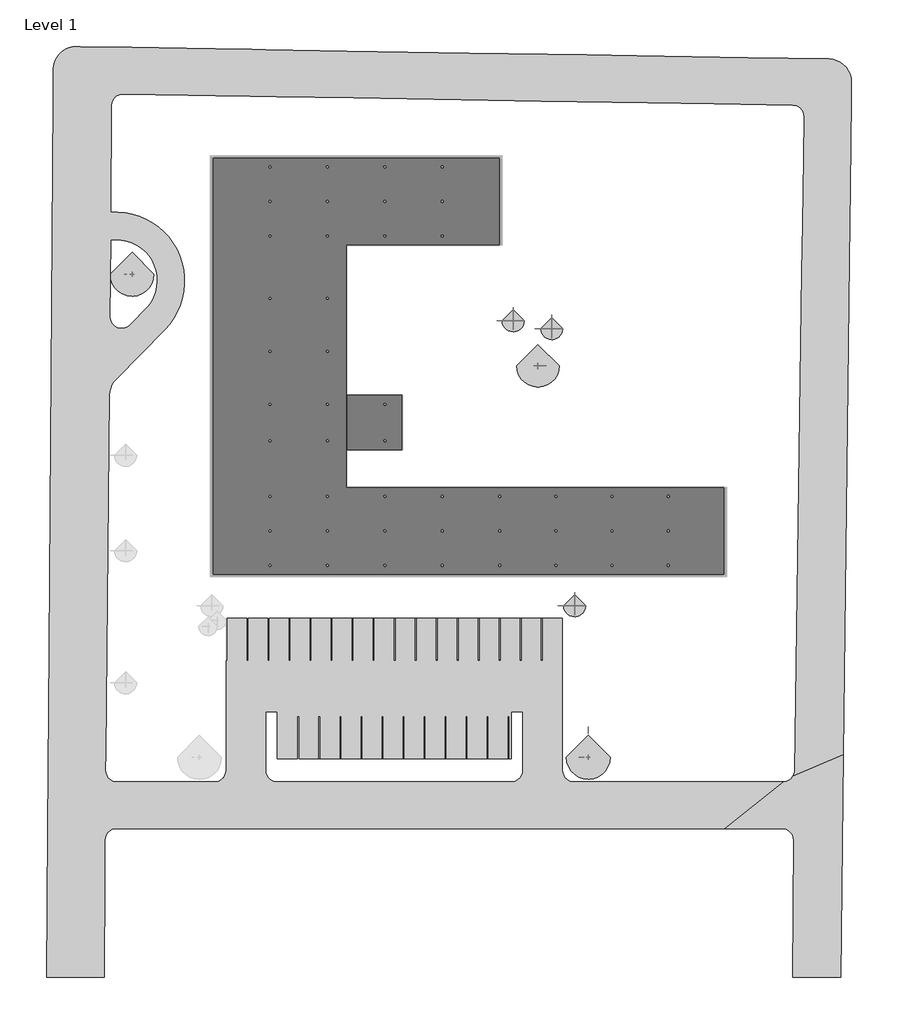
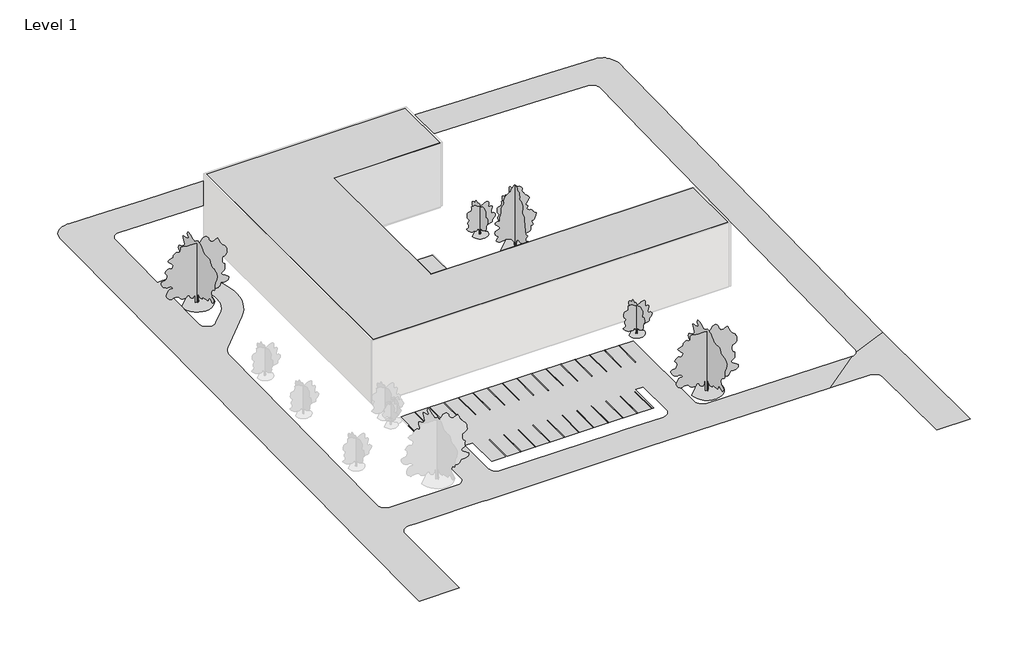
# One storey, part 2 of 2: 26 proxies, 6 geographic elements.
"""IFC4 building model written with IfcOpenShell, lengths in millimetres."""

from ifc_helpers import new_model, si_unit, origin, origin_with_axes, place, context, project, spatial, polyline, outline, extrude, triangles, transform, mapped, element, save
from components import m_parking_space_5480_x_2740mm_90_deg_a793e569, m_rpc_tree_deciduous_american_beech_6_0_meters_be49fed4, m_rpc_tree_deciduous_lombardy_poplar_12_2_meters_1b309f58, m_rpc_tree_deciduous_scarlet_oak_12_5_meters_13b38d7d

model = new_model("IFC4")

# Units and contexts
model_context = context("Model", 3, world=origin())
ifc_project = project(units=[si_unit("LENGTHUNIT", "METRE", prefix="MILLI")], contexts=[model_context])

# Site, building, storey
site = spatial("IfcSite", under=ifc_project)
building = spatial("IfcBuilding", under=site)
storey = spatial("IfcBuildingStorey", under=building, Name="Level 1", Elevation=0.0)

# Proxies
placement = place(None, origin())
element("IfcBuildingElementProxy", 1, Name="Building Element Proxy", at=placement, inside=storey, context=model_context, shape_type="Tessellation", body=[
    triangles([(70309.7548828, 43704.7137085, -503.1527547), (59746.7205688, 43879.5355957, -409.5406998), (45204.5570435, 44120.2092773, -278.9620967), (38757.531958, 44226.9097412, -221.9724431), (23364.4389771, 44481.6709351, -156.1477909), (7458.42556, 44744.915332, 0.0), (-3099.0088051, 44919.6442017, 0.0), (-4909.0805878, 44949.6005127, 0.0), (-9691.7927261, 45028.7538208, 0.0), (-13464.786264, 45091.2011719, 0.0), (-20574.5627563, 45208.8684082, 0.0), (-27271.6376953, 45319.7081543, 0.0), (-27739.5370422, 45327.4518677, 0.0), (-28264.1631592, 45290.0215942, 0.0), (-28774.1901672, 45161.5457153, 0.0), (-29253.9399536, 44945.9681763, 0.0), (-29688.6669067, 44649.9211304, 0.0), (-30065.011377, 44282.4970459, 0.0), (-30371.4019775, 43854.9975586, 0.0), (-30598.4230042, 43380.5567505, 0.0), (-30739.095813, 42873.755127, 0.0), (-30774.2820374, 42505.3404053, 0.0), (-30789.0997375, 42350.1824341, 0.0), (-30818.2607483, 38430.6216797, 0.0), (-31349.0702087, -32913.8142334, 0.0), (-31410.3827454, -41154.7298218, 0.0), (-31466.9560364, -48758.3494263, 0.0), (-31526.3942688, -56747.4710815, 0.0), (-31669.8878357, -76033.9217651, 0.0), (-24160.2671448, -76033.9217651, 0.0), (-24090.7853394, -62944.5904907, 0.0), (-24065.2287598, -58130.4099243, 0.0), (-24026.1078918, -57797.9371948, 0.0), (-23964.4744446, -57624.1291992, 0.0), (-23914.2263489, -57482.4262207, 0.0), (-23735.1558838, -57199.58302, 0.0), (-23497.8145569, -56963.4997559, 0.0), (-23214.0249023, -56785.9338501, 0.0), (-22897.9232666, -56675.7266235, 0.0), (-22565.2505493, -56638.3707642, 0.0), (-21189.1601257, -56638.3707642, 0.0), (-18714.6158203, -56638.3707642, 0.0), (-9198.8908356, -56638.3707642, 0.0), (-8594.8358459, -56638.3707642, 0.0), (-7828.2291504, -56638.3707642, 0.0), (21010.0826843, -56638.3707642, 0.0), (22698.8121643, -56638.3707642, 0.0), (56711.1151611, -56638.3707642, -334.7282604), (64236.9255615, -56638.3707642, -334.7282604), (64572.5050781, -56676.3916992, -334.0721231), (64891.0763306, -56788.5243896, -332.1369578), (65176.4821655, -56969.0808105, -329.020869), (65414.2630005, -57208.917334, -324.8818048), (65592.3591064, -57495.8672607, -319.9295998), (65701.7431274, -57815.3872925, -314.4152925), (65736.8712158, -58151.2830688, -308.6184443), (65582.9224731, -76033.9217651, 0.0), (71858.6882446, -76033.9217651, 0.0), (72207.6111328, -46972.9328247, -501.5343578), (72914.4470581, 11897.6051788, -595.5837407), (72981.5592407, 17486.9884277, -555.8220689), (73096.2220093, 27037.1194519, -545.4053719), (73231.3532959, 38291.881311, -535.7858282), (73259.8957397, 40669.1083008, -533.0508934), (73220.8237061, 41189.0672607, -532.0520082), (73092.3059692, 41694.4085083, -530.2807137), (72878.2306641, 42169.863208, -527.790495), (72585.0625122, 42601.0694458, -524.6566383), (72221.661438, 42975.0001099, -520.9737236), (71799.0035156, 43280.3582153, -516.8530812), (71329.8554077, 43507.9210693, -512.4191949), (70828.3883423, 43650.810022, -507.805959), (65844.943689, -49064.5493408, -435.8225258), (65789.1005859, -49448.423584, -434.7050795), (65636.6912842, -49805.1366943, -432.6774053), (65397.8965576, -50110.8436157, -429.875069), (65088.6968262, -50345.0897827, -426.4855594), (64729.7652466, -50492.2110352, -422.7355339), (64345.1050049, -50542.3707642, -418.8757768), (37077.7972778, -50542.3707642, -150.5276125), (36744.0176514, -50504.7637573, -147.2983764), (36426.9718872, -50393.8263428, -144.3423523), (36142.5636658, -50215.1163208, -141.8077414), (35905.0502563, -49977.6052368, -139.8216707), (35726.3448853, -49693.1946899, -138.4837074), (35615.4051453, -49376.1535767, -137.8609529), (35577.7981384, -49042.3692993, -137.9846372), (35577.7981384, -29206.3707642, -167.3300298), (18575.1115448, -29206.3707642, 0.0), (14497.9359924, -29206.3707642, 0.0), (-7039.9656372, -29206.3707642, 0.0), (-8262.2014984, -29206.3707642, 0.0), (-8262.2014984, -49042.3692993, 0.0), (-8299.809668, -49376.1535767, 0.0), (-8410.7482452, -49693.1946899, 0.0), (-8589.4541977, -49977.6052368, 0.0), (-8665.8786026, -50054.028479, 0.0), (-8826.9670258, -50215.1163208, 0.0), (-9111.3758286, -50393.8263428, 0.0), (-9428.4198486, -50504.7637573, 0.0), (-9455.9652603, -50507.8658936, 0.0), (-9762.2018005, -50542.3707642, 0.0), (-21961.0269653, -50542.3707642, 0.0), (-22489.1714722, -50542.3707642, 0.0), (-22825.1137573, -50504.2661133, 0.0), (-23143.9896423, -50391.896228, 0.0), (-23429.5977905, -50210.9584351, 0.0), (-23667.4274597, -49970.6568237, 0.0), (-23845.3979919, -49683.1953003, 0.0), (-23954.4657532, -49363.1729736, 0.0), (-23989.0915466, -49026.8539673, 0.0), (-23965.8278503, -46777.8191528, 0.0), (-23482.8736084, -89.4265001, 0.0), (-23435.7322998, 363.1888415, 0.0), (-23321.7694885, 803.7518847, 0.0), (-23143.5268799, 1222.4547432, 0.0), (-22904.9670227, 1609.9761475, 0.0), (-22611.4058716, 1957.6892258, 0.0), (-16262.7991974, 8428.9988754, 0.0), (-15636.7711304, 9137.9788559, 0.0), (-15088.4732025, 9908.6498383, 0.0), (-14623.9422546, 10732.5286194, 0.0), (-14248.2919281, 11600.5442413, 0.0), (-13965.658017, 12503.1414734, 0.0), (-13779.1507965, 13430.3848755, 0.0), (-13690.8247925, 14372.0646057, 0.0), (-13701.6508759, 15317.8173431, 0.0), (-13811.5116119, 16257.2297699, 0.0), (-14019.1954468, 17179.959494, 0.0), (-14322.4187988, 18075.8513214, 0.0), (-14717.8411743, 18935.0395752, 0.0), (-15201.1093506, 19748.0690186, 0.0), (-15766.9062103, 20505.9855469, 0.0), (-16409.0007385, 21200.4478088, 0.0), (-17120.3235992, 21823.812085, 0.0), (-17893.0473633, 22369.2160034, 0.0), (-18718.662085, 22830.6506287, 0.0), (-19588.0811096, 23203.0418518, 0.0), (-20491.7329285, 23482.2875977, 0.0), (-21419.6693115, 23665.3136353, 0.0), (-22361.6746033, 23750.1084595, 0.0), (-23307.3796692, 23735.7325928, 0.0), (-23203.9185425, 37641.6768127, 0.0), (-23163.3768311, 37977.0679688, 0.0), (-23048.8094055, 38294.8811279, 0.0), (-22866.0228882, 38578.9940186, 0.0), (-22624.2911316, 38814.9958923, 0.0), (-22335.8738525, 38990.915387, 0.0), (-22015.4050415, 39097.8274658, 0.0), (-21679.1371948, 39130.3092041, 0.0), (-13208.9460663, 38990.1293884, 0.0), (-9625.997905, 38930.8306824, 0.0), (-5084.1908295, 38855.6655029, 0.0), (-1645.9585442, 38798.7619995, 0.0), (8377.2142456, 38632.8791016, 0.0), (32875.1398499, 38227.4364075, -240.4937689), (46729.6360474, 37998.1434265, -299.7389899), (55435.3325684, 37854.0638489, -376.6945579), (65630.1847046, 37685.3392639, -468.2372987), (65962.9318359, 37642.302356, -471.261242), (66277.7870361, 37526.3815247, -474.1950019), (66559.0024292, 37343.376416, -476.8917123), (66792.4998047, 37102.4422852, -479.216534), (66966.6054565, 36815.6318848, -481.0531225), (67072.6082886, 36497.2978271, -482.3095865), (67105.1969971, 36163.3670471, -482.9230665), (67025.2297852, 30755.4808594, -487.4104743), (66899.3025879, 22239.1774292, -496.4906977), (66805.7827148, 15914.661145, -541.4088498), (-1581.9995121, -47494.3707642, 0.0), (18839.3663452, -47494.3707642, 0.0), (21324.2449036, -47494.3707642, 0.0), (28897.5965881, -47494.3707642, -74.5322966), (28897.5965881, -41398.3707642, -83.5507232), (30421.5965881, -41398.3707642, -98.5489992), (30421.5965881, -49042.3692993, -87.2404598), (30383.9895813, -49376.1535767, -86.3765409), (30273.0498413, -49693.1946899, -84.8157168), (30094.3444702, -49977.6052368, -82.6362441), (29856.8310608, -50215.1163208, -79.9474184), (29572.4228394, -50393.8263428, -76.8840607), (29255.3770752, -50504.7637573, -73.5997817), (28921.5974487, -50542.3707642, -70.2592743), (21782.4332153, -50542.3707642, 0.0), (19562.9384583, -50542.3707642, 0.0), (-1605.9993553, -50542.3707642, 0.0), (-1939.7807259, -50504.7637573, 0.0), (-2256.8250366, -50393.8263428, 0.0), (-2541.2341301, -50215.1163208, 0.0), (-2778.7466675, -49977.6052368, 0.0), (-2957.4526199, -49693.1946899, 0.0), (-3068.3911972, -49376.1535767, 0.0), (-3105.9993668, -49042.3692993, 0.0), (-3105.9993668, -41398.3707642, 0.0), (-1581.9995121, -41398.3707642, 0.0), (-23329.5411072, 20062.4428528, 0.0), (-22621.2355042, 20122.8182373, 0.0), (-21911.2137268, 20088.0784973, 0.0), (-21212.1866272, 19958.8398743, 0.0), (-20536.6766968, 19737.4208313, 0.0), (-19896.7808716, 19427.7839172, 0.0), (-19303.9589172, 19035.4776306, 0.0), (-18768.829953, 18567.527124, 0.0), (-18300.9771149, 18032.3132813, 0.0), (-17908.7801239, 17439.420401, 0.0), (-17599.2606445, 16799.4687653, 0.0), (-17377.9648499, 16123.9181396, 0.0), (-17248.854126, 15424.8677856, 0.0), (-17214.2422852, 14714.8378693, 0.0), (-17274.7478943, 14006.5438934, 0.0), (-17429.2872986, 13312.6722931, 0.0), (-17675.0943878, 12645.649054, 0.0), (-18007.7659424, 12017.4211212, 0.0), (-18421.3430237, 11439.2389709, 0.0), (-20791.7983337, 9022.9684341, 0.0), (-21073.2044128, 8797.119429, 0.0), (-21399.8193604, 8643.7590225, 0.0), (-21753.3349915, 8571.483783, 0.0), (-22113.9339111, 8584.3452072, 0.0), (-22461.4010742, 8681.6229904, 0.0), (-22776.2609253, 8857.8639771, 0.0), (-23040.8610535, 9103.1879562, 0.0), (-23240.3698059, 9403.8428604, 0.0), (-23363.6018188, 9742.9750671, 0.0), (-23403.6505371, 10101.5741089, 0.0)], [[29, 30, 31], [29, 31, 28], [28, 32, 33], [32, 28, 31], [33, 34, 28], [28, 34, 35], [36, 37, 108], [36, 108, 28], [108, 37, 107], [38, 106, 107], [106, 38, 39], [37, 38, 107], [36, 28, 35], [28, 108, 27], [110, 111, 27], [109, 110, 27], [26, 27, 112], [25, 112, 113], [112, 25, 26], [27, 111, 112], [109, 27, 108], [114, 115, 224], [113, 114, 225], [225, 114, 224], [223, 116, 117], [223, 224, 115], [116, 223, 115], [25, 113, 24], [24, 113, 225], [105, 39, 40], [104, 40, 103], [105, 40, 104], [117, 118, 222], [118, 219, 220], [221, 118, 220], [223, 117, 222], [103, 41, 42], [41, 103, 40], [219, 118, 218], [216, 118, 119], [217, 218, 118], [118, 216, 217], [216, 119, 215], [212, 213, 122], [214, 121, 213], [119, 214, 215], [221, 222, 118], [121, 122, 213], [122, 123, 212], [211, 123, 124], [211, 212, 123], [211, 124, 210], [210, 124, 125], [121, 214, 120], [120, 214, 119], [105, 106, 39], [142, 143, 24], [196, 142, 24], [24, 144, 145], [144, 24, 143], [24, 145, 23], [146, 23, 145], [142, 196, 197], [196, 24, 225], [140, 198, 139], [197, 198, 141], [141, 198, 140], [12, 146, 147], [141, 142, 197], [12, 147, 148], [22, 20, 21], [16, 17, 22], [20, 22, 19], [18, 19, 22], [17, 18, 22], [22, 23, 13], [23, 12, 13], [23, 146, 12], [149, 11, 148], [16, 22, 15], [22, 14, 15], [13, 14, 22], [149, 150, 11], [12, 148, 11], [139, 198, 199], [207, 208, 128], [133, 203, 204], [205, 206, 131], [132, 204, 205], [207, 129, 206], [209, 126, 127], [126, 209, 210], [127, 128, 208], [206, 130, 131], [130, 206, 129], [129, 207, 128], [127, 208, 209], [210, 125, 126], [131, 132, 205], [137, 201, 136], [200, 201, 137], [11, 150, 151], [139, 199, 138], [200, 137, 138], [201, 202, 136], [199, 200, 138], [203, 134, 202], [134, 135, 202], [136, 202, 135], [10, 151, 9], [10, 11, 151], [203, 133, 134], [204, 132, 133], [103, 42, 102], [100, 43, 44], [99, 100, 44], [102, 43, 101], [188, 45, 187], [100, 101, 43], [44, 45, 99], [45, 186, 187], [43, 102, 42], [185, 186, 46], [46, 186, 45], [184, 46, 47], [185, 46, 184], [182, 183, 47], [47, 183, 184], [182, 82, 181], [99, 45, 98], [98, 45, 97], [95, 96, 190], [93, 94, 192], [95, 191, 94], [97, 190, 96], [45, 189, 190], [45, 188, 189], [191, 192, 94], [191, 95, 190], [193, 93, 192], [180, 181, 83], [190, 97, 45], [81, 182, 47], [79, 50, 78], [49, 50, 79], [80, 47, 48], [48, 79, 80], [79, 48, 49], [81, 47, 80], [78, 50, 51], [57, 58, 56], [55, 59, 54], [77, 51, 52], [59, 75, 53], [76, 52, 53], [54, 59, 53], [182, 81, 82], [55, 56, 59], [180, 84, 179], [180, 83, 84], [179, 84, 85], [177, 178, 86], [85, 86, 178], [178, 179, 85], [87, 177, 86], [77, 78, 51], [75, 76, 53], [59, 73, 74], [74, 75, 59], [77, 52, 76], [82, 83, 181], [56, 58, 59], [170, 171, 195], [91, 92, 194], [194, 195, 91], [93, 194, 92], [195, 90, 91], [90, 195, 171], [194, 93, 193], [175, 176, 87], [172, 174, 89], [172, 173, 174], [175, 88, 174], [88, 175, 87], [172, 89, 171], [177, 87, 176], [89, 174, 88], [8, 152, 153], [7, 153, 154], [8, 9, 152], [6, 7, 154], [8, 153, 7], [154, 155, 6], [9, 151, 152], [89, 90, 171], [155, 5, 6], [155, 156, 5], [5, 156, 4], [4, 157, 3], [4, 156, 157], [168, 169, 61], [160, 161, 1], [162, 163, 64], [161, 162, 1], [163, 164, 63], [62, 168, 61], [61, 169, 60], [165, 166, 63], [167, 63, 166], [168, 62, 167], [164, 165, 63], [63, 167, 62], [3, 158, 2], [2, 158, 159], [2, 159, 1], [66, 71, 72], [72, 1, 65], [159, 160, 1], [158, 3, 157], [66, 72, 65], [64, 65, 1], [66, 67, 71], [69, 70, 68], [67, 68, 70], [71, 67, 70], [162, 64, 1], [163, 63, 64], [60, 169, 73], [59, 60, 73]], closed=False),
])
m_parking_space_5480_x_2740mm_90_deg_shape = m_parking_space_5480_x_2740mm_90_deg_a793e569(model_context)
element("IfcBuildingElementProxy", 2, Name="M_Parking Space : 5480 x 2740mm - 90 deg", ObjectType="M_Parking Space : 5480 x 2740mm - 90 deg", at=placement, inside=storey, context=model_context, shape_type="MappedRepresentation", body=[
    mapped(m_parking_space_5480_x_2740mm_90_deg_shape, transform((8.5369219, -29206.3707642, 0.7803686), x_axis=(1.0, 0.0, 0.0), y_axis=(0.0, 1.0, 0.0), z_axis=(0.0, 0.0, 1.0))),
])
element("IfcBuildingElementProxy", 3, Name="M_Parking Space : 5480 x 2740mm - 90 deg", ObjectType="M_Parking Space : 5480 x 2740mm - 90 deg", at=placement, inside=storey, context=model_context, shape_type="MappedRepresentation", body=[
    mapped(m_parking_space_5480_x_2740mm_90_deg_shape, transform((2748.5060292, -29206.3707642, 0.7803686), x_axis=(1.0, 0.0, 0.0), y_axis=(0.0, 1.0, 0.0), z_axis=(0.0, 0.0, 1.0))),
])
element("IfcBuildingElementProxy", 4, Name="M_Parking Space : 5480 x 2740mm - 90 deg", ObjectType="M_Parking Space : 5480 x 2740mm - 90 deg", at=placement, inside=storey, context=model_context, shape_type="MappedRepresentation", body=[
    mapped(m_parking_space_5480_x_2740mm_90_deg_shape, transform((5488.4751366, -29206.3707642, 0.7803686), x_axis=(1.0, 0.0, 0.0), y_axis=(0.0, 1.0, 0.0), z_axis=(0.0, 0.0, 1.0))),
])
element("IfcBuildingElementProxy", 5, Name="M_Parking Space : 5480 x 2740mm - 90 deg", ObjectType="M_Parking Space : 5480 x 2740mm - 90 deg", at=placement, inside=storey, context=model_context, shape_type="MappedRepresentation", body=[
    mapped(m_parking_space_5480_x_2740mm_90_deg_shape, transform((8228.4442439, -29206.3707642, 0.7803686), x_axis=(1.0, 0.0, 0.0), y_axis=(0.0, 1.0, 0.0), z_axis=(0.0, 0.0, 1.0))),
])
element("IfcBuildingElementProxy", 6, Name="M_Parking Space : 5480 x 2740mm - 90 deg", ObjectType="M_Parking Space : 5480 x 2740mm - 90 deg", at=placement, inside=storey, context=model_context, shape_type="MappedRepresentation", body=[
    mapped(m_parking_space_5480_x_2740mm_90_deg_shape, transform((10968.4133512, -29206.3707642, 0.7803686), x_axis=(1.0, 0.0, 0.0), y_axis=(0.0, 1.0, 0.0), z_axis=(0.0, 0.0, 1.0))),
])
element("IfcBuildingElementProxy", 7, Name="M_Parking Space : 5480 x 2740mm - 90 deg", ObjectType="M_Parking Space : 5480 x 2740mm - 90 deg", at=placement, inside=storey, context=model_context, shape_type="MappedRepresentation", body=[
    mapped(m_parking_space_5480_x_2740mm_90_deg_shape, transform((13708.3824586, -29206.3707642, 0.7803686), x_axis=(1.0, 0.0, 0.0), y_axis=(0.0, 1.0, 0.0), z_axis=(0.0, 0.0, 1.0))),
])
element("IfcBuildingElementProxy", 8, Name="M_Parking Space : 5480 x 2740mm - 90 deg", ObjectType="M_Parking Space : 5480 x 2740mm - 90 deg", at=placement, inside=storey, context=model_context, shape_type="MappedRepresentation", body=[
    mapped(m_parking_space_5480_x_2740mm_90_deg_shape, transform((16448.3515659, -29206.3707642, 0.7254434), x_axis=(1.0, 0.0, 0.0), y_axis=(0.0, 1.0, 0.0), z_axis=(0.0, 0.0, 1.0))),
])
element("IfcBuildingElementProxy", 9, Name="M_Parking Space : 5480 x 2740mm - 90 deg", ObjectType="M_Parking Space : 5480 x 2740mm - 90 deg", at=placement, inside=storey, context=model_context, shape_type="MappedRepresentation", body=[
    mapped(m_parking_space_5480_x_2740mm_90_deg_shape, transform((19188.3206733, -29206.3707642, -5.2310848), x_axis=(0.9999560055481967, 0.0, -0.009380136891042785), y_axis=(-1.1675017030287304e-05, 0.9999992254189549, -0.0012445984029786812), z_axis=(0.009380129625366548, 0.0012446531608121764, 0.9999552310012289))),
])
element("IfcBuildingElementProxy", 10, Name="M_Parking Space : 5480 x 2740mm - 90 deg", ObjectType="M_Parking Space : 5480 x 2740mm - 90 deg", at=placement, inside=storey, context=model_context, shape_type="MappedRepresentation", body=[
    mapped(m_parking_space_5480_x_2740mm_90_deg_shape, transform((21928.2897806, -29206.3707642, -32.2196013), x_axis=(0.9999515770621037, 0.0, -0.0098409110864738), y_axis=(-1.4557933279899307e-05, 0.9999989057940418, -0.0014792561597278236), z_axis=(0.009840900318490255, 0.0014793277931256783, 0.99995048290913))),
])
element("IfcBuildingElementProxy", 11, Name="M_Parking Space : 5480 x 2740mm - 90 deg", ObjectType="M_Parking Space : 5480 x 2740mm - 90 deg", at=placement, inside=storey, context=model_context, shape_type="MappedRepresentation", body=[
    mapped(m_parking_space_5480_x_2740mm_90_deg_shape, transform((24668.258888, -29206.3707642, -59.1846994), x_axis=(0.9999515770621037, 0.0, -0.009840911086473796), y_axis=(-1.4557933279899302e-05, 0.9999989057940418, -0.0014792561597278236), z_axis=(0.009840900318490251, 0.0014793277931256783, 0.99995048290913))),
])
element("IfcBuildingElementProxy", 12, Name="M_Parking Space : 5480 x 2740mm - 90 deg", ObjectType="M_Parking Space : 5480 x 2740mm - 90 deg", at=placement, inside=storey, context=model_context, shape_type="MappedRepresentation", body=[
    mapped(m_parking_space_5480_x_2740mm_90_deg_shape, transform((27408.2279953, -29206.3707642, -86.1497975), x_axis=(0.9999515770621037, 0.0, -0.0098409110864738), y_axis=(-1.4557933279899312e-05, 0.9999989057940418, -0.001479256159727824), z_axis=(0.009840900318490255, 0.0014793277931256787, 0.99995048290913))),
])
element("IfcBuildingElementProxy", 13, Name="M_Parking Space : 5480 x 2740mm - 90 deg", ObjectType="M_Parking Space : 5480 x 2740mm - 90 deg", at=placement, inside=storey, context=model_context, shape_type="MappedRepresentation", body=[
    mapped(m_parking_space_5480_x_2740mm_90_deg_shape, transform((30148.1971027, -29206.3707642, -113.1148956), x_axis=(0.9999515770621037, 0.0, -0.009840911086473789), y_axis=(-1.4557933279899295e-05, 0.9999989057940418, -0.001479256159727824), z_axis=(0.009840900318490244, 0.0014793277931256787, 0.99995048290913))),
])
element("IfcBuildingElementProxy", 14, Name="M_Parking Space : 5480 x 2740mm - 90 deg", ObjectType="M_Parking Space : 5480 x 2740mm - 90 deg", at=placement, inside=storey, context=model_context, shape_type="MappedRepresentation", body=[
    mapped(m_parking_space_5480_x_2740mm_90_deg_shape, transform((32888.16621, -29206.3707642, -140.0799937), x_axis=(0.9999515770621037, 0.0, -0.009840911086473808), y_axis=(-1.4557933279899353e-05, 0.9999989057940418, -0.0014792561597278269), z_axis=(0.009840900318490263, 0.0014793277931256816, 0.99995048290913))),
])
element("IfcBuildingElementProxy", 15, Name="M_Parking Space : 5480 x 2740mm - 90 deg", ObjectType="M_Parking Space : 5480 x 2740mm - 90 deg", at=placement, inside=storey, context=model_context, shape_type="MappedRepresentation", body=[
    mapped(m_parking_space_5480_x_2740mm_90_deg_shape, transform((28558.0005584, -47494.3704098, -70.4098691), x_axis=(-0.9999515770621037, 0.0, 0.009840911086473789), y_axis=(1.4557933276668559e-05, -0.9999989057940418, 0.0014792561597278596), z_axis=(0.00984090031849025, 0.0014793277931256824, 0.99995048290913))),
])
element("IfcBuildingElementProxy", 16, Name="M_Parking Space : 5480 x 2740mm - 90 deg", ObjectType="M_Parking Space : 5480 x 2740mm - 90 deg", at=placement, inside=storey, context=model_context, shape_type="MappedRepresentation", body=[
    mapped(m_parking_space_5480_x_2740mm_90_deg_shape, transform((25818.031746, -47494.3704098, -43.444774), x_axis=(-0.9999515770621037, 0.0, 0.009840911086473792), y_axis=(1.455793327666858e-05, -0.9999989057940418, 0.0014792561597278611), z_axis=(0.009840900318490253, 0.001479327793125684, 0.99995048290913))),
])
element("IfcBuildingElementProxy", 17, Name="M_Parking Space : 5480 x 2740mm - 90 deg", ObjectType="M_Parking Space : 5480 x 2740mm - 90 deg", at=placement, inside=storey, context=model_context, shape_type="MappedRepresentation", body=[
    mapped(m_parking_space_5480_x_2740mm_90_deg_shape, transform((23078.0629336, -47494.3704098, -16.4796788), x_axis=(-0.9999515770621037, 0.0, 0.009840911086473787), y_axis=(1.4557933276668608e-05, -0.9999989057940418, 0.0014792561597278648), z_axis=(0.009840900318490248, 0.0014793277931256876, 0.99995048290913))),
])
element("IfcBuildingElementProxy", 18, Name="M_Parking Space : 5480 x 2740mm - 90 deg", ObjectType="M_Parking Space : 5480 x 2740mm - 90 deg", at=placement, inside=storey, context=model_context, shape_type="MappedRepresentation", body=[
    mapped(m_parking_space_5480_x_2740mm_90_deg_shape, transform((20338.0941212, -47494.3704098, 0.5399922), x_axis=(-0.9999888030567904, 0.0, 0.004732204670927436), y_axis=(3.5003760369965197e-06, -0.9999997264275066, 0.0007396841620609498), z_axis=(0.004732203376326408, 0.0007396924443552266, 0.9999885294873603))),
])
element("IfcBuildingElementProxy", 19, Name="M_Parking Space : 5480 x 2740mm - 90 deg", ObjectType="M_Parking Space : 5480 x 2740mm - 90 deg", at=placement, inside=storey, context=model_context, shape_type="MappedRepresentation", body=[
    mapped(m_parking_space_5480_x_2740mm_90_deg_shape, transform((17598.1253087, -47494.3704098, 0.7803686), x_axis=(-1.0, 0.0, 0.0), y_axis=(0.0, -1.0, 0.0), z_axis=(0.0, 0.0, 1.0))),
])
element("IfcBuildingElementProxy", 20, Name="M_Parking Space : 5480 x 2740mm - 90 deg", ObjectType="M_Parking Space : 5480 x 2740mm - 90 deg", at=placement, inside=storey, context=model_context, shape_type="MappedRepresentation", body=[
    mapped(m_parking_space_5480_x_2740mm_90_deg_shape, transform((14858.1564963, -47494.3704098, 0.7803686), x_axis=(-1.0, 0.0, 0.0), y_axis=(0.0, -1.0, 0.0), z_axis=(0.0, 0.0, 1.0))),
])
element("IfcBuildingElementProxy", 21, Name="M_Parking Space : 5480 x 2740mm - 90 deg", ObjectType="M_Parking Space : 5480 x 2740mm - 90 deg", at=placement, inside=storey, context=model_context, shape_type="MappedRepresentation", body=[
    mapped(m_parking_space_5480_x_2740mm_90_deg_shape, transform((12118.1876839, -47494.3704098, 0.7803686), x_axis=(-1.0, 0.0, 0.0), y_axis=(0.0, -1.0, 0.0), z_axis=(0.0, 0.0, 1.0))),
])
element("IfcBuildingElementProxy", 22, Name="M_Parking Space : 5480 x 2740mm - 90 deg", ObjectType="M_Parking Space : 5480 x 2740mm - 90 deg", at=placement, inside=storey, context=model_context, shape_type="MappedRepresentation", body=[
    mapped(m_parking_space_5480_x_2740mm_90_deg_shape, transform((9378.2188715, -47494.3704098, 0.7803686), x_axis=(-1.0, 0.0, 0.0), y_axis=(0.0, -1.0, 0.0), z_axis=(0.0, 0.0, 1.0))),
])
element("IfcBuildingElementProxy", 23, Name="M_Parking Space : 5480 x 2740mm - 90 deg", ObjectType="M_Parking Space : 5480 x 2740mm - 90 deg", at=placement, inside=storey, context=model_context, shape_type="MappedRepresentation", body=[
    mapped(m_parking_space_5480_x_2740mm_90_deg_shape, transform((6638.2500591, -47494.3704098, 0.7803686), x_axis=(-1.0, 0.0, 0.0), y_axis=(0.0, -1.0, 0.0), z_axis=(0.0, 0.0, 1.0))),
])
element("IfcBuildingElementProxy", 24, Name="M_Parking Space : 5480 x 2740mm - 90 deg", ObjectType="M_Parking Space : 5480 x 2740mm - 90 deg", at=placement, inside=storey, context=model_context, shape_type="MappedRepresentation", body=[
    mapped(m_parking_space_5480_x_2740mm_90_deg_shape, transform((3898.2812467, -47494.3704098, 0.7803686), x_axis=(-1.0, 0.0, 0.0), y_axis=(0.0, -1.0, 0.0), z_axis=(0.0, 0.0, 1.0))),
])
element("IfcBuildingElementProxy", 25, Name="Main Building : Main Building", ObjectType="Main Building : Main Building", at=placement, inside=storey, context=model_context, shape_type="SweptSolid", body=[
    extrude(outline(polyline([(27411.8999097, 30818.5799804), (27411.8999097, 19414.8392059), (7447.5010724, 19414.8392059), (7447.5010724, -12132.3615692), (56699.1173382, -12132.3615692), (56699.1173382, -23510.7006057), (-10026.8386635, -23510.7006057), (-10026.8386635, 30818.5799804), (27411.8999097, 30818.5799804)])), origin_with_axes(), (0.0, 0.0, 1.0), 12600.0),
])
element("IfcBuildingElementProxy", 26, Name="Pavillion : Pavillion", ObjectType="Pavillion : Pavillion", at=placement, inside=storey, context=model_context, shape_type="SweptSolid", body=[
    extrude(outline(polyline([(14709.0902051, -89.4607941), (14709.0902051, -7283.8611817), (7447.5010724, -7283.8611817), (7447.5010724, -89.4607941), (14709.0902051, -89.4607941)])), origin_with_axes(), (0.0, 0.0, 1.0), 6600.0),
])

# Geographic elements
m_rpc_tree_deciduous_american_beech_6_0_meters_shape = m_rpc_tree_deciduous_american_beech_6_0_meters_be49fed4(model_context)
element("IfcGeographicElement", 27, ObjectType="M_RPC Tree - Deciduous : American Beech - 6.0 Meters", at=placement, inside=storey, context=model_context, shape_type="MappedRepresentation", body=[
    mapped(m_rpc_tree_deciduous_american_beech_6_0_meters_shape, transform((34188.8932364, 8562.754829, -209.5369666), x_axis=(1.0, 0.0, 0.0), y_axis=(0.0, 1.0, 0.0), z_axis=(0.0, 0.0, 1.0))),
])
element("IfcGeographicElement", 28, ObjectType="M_RPC Tree - Deciduous : American Beech - 6.0 Meters", at=placement, inside=storey, context=model_context, shape_type="MappedRepresentation", body=[
    mapped(m_rpc_tree_deciduous_american_beech_6_0_meters_shape, transform((37171.3388229, -27567.443133, -185.4373169), x_axis=(1.0, 0.0, 0.0), y_axis=(0.0, 1.0, 0.0), z_axis=(0.0, 0.0, 1.0))),
])
element("IfcGeographicElement", 29, ObjectType="M_RPC Tree - Deciduous : American Beech - 6.0 Meters", at=placement, inside=storey, context=model_context, shape_type="MappedRepresentation", body=[
    mapped(m_rpc_tree_deciduous_american_beech_6_0_meters_shape, transform((29161.3421049, 9585.3076015, -161.5716527), x_axis=(1.0, 0.0, 0.0), y_axis=(0.0, 1.0, 0.0), z_axis=(0.0, 0.0, 1.0))),
])
m_rpc_tree_deciduous_lombardy_poplar_12_2_meters_shape = m_rpc_tree_deciduous_lombardy_poplar_12_2_meters_1b309f58(model_context)
element("IfcGeographicElement", 30, ObjectType="M_RPC Tree - Deciduous : Lombardy Poplar - 12.2 Meters", at=placement, inside=storey, context=model_context, shape_type="MappedRepresentation", body=[
    mapped(m_rpc_tree_deciduous_lombardy_poplar_12_2_meters_shape, transform((32399.4258845, 3705.6291595, -184.7404879), x_axis=(1.0, 0.0, 0.0), y_axis=(0.0, 1.0, 0.0), z_axis=(0.0, 0.0, 1.0))),
])
m_rpc_tree_deciduous_scarlet_oak_12_5_meters_shape = m_rpc_tree_deciduous_scarlet_oak_12_5_meters_13b38d7d(model_context)
element("IfcGeographicElement", 31, ObjectType="M_RPC Tree - Deciduous : Scarlet Oak - 12.5 Meters", at=placement, inside=storey, context=model_context, shape_type="MappedRepresentation", body=[
    mapped(m_rpc_tree_deciduous_scarlet_oak_12_5_meters_shape, transform((38960.8061748, -47336.7967349, -173.8013564), x_axis=(1.0, 0.0, 0.0), y_axis=(0.0, 1.0, 0.0), z_axis=(0.0, 0.0, 1.0))),
])
element("IfcGeographicElement", 32, ObjectType="M_RPC Tree - Deciduous : Scarlet Oak - 12.5 Meters", at=placement, inside=storey, context=model_context, shape_type="MappedRepresentation", body=[
    mapped(m_rpc_tree_deciduous_scarlet_oak_12_5_meters_shape, transform((-20517.6800928, 15635.4115055, 0.0), x_axis=(1.0, 0.0, 0.0), y_axis=(0.0, 1.0, 0.0), z_axis=(0.0, 0.0, 1.0))),
])

save(model, "model.ifc")
